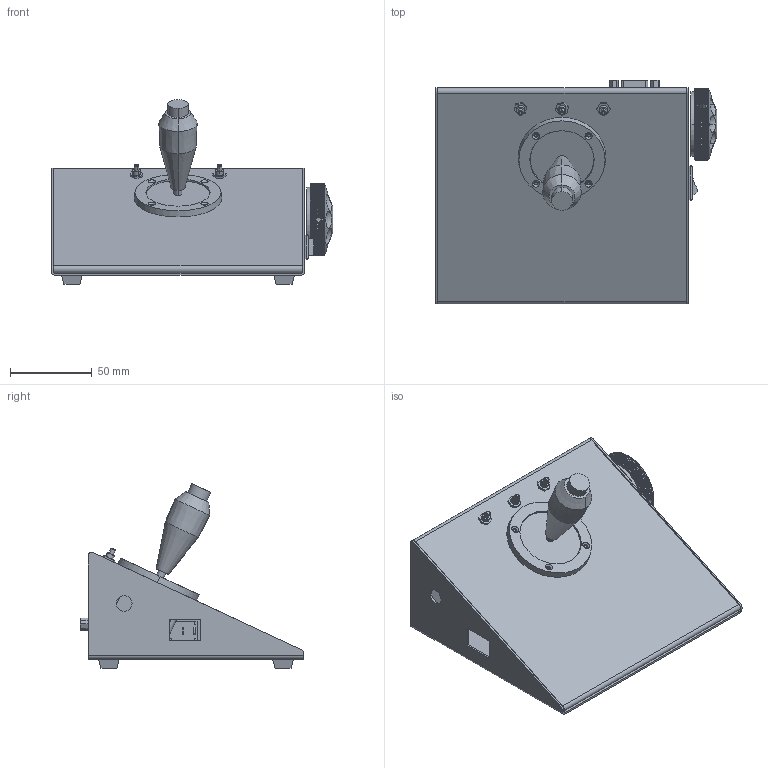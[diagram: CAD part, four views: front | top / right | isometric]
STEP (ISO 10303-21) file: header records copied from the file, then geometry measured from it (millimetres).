
FILE_DESCRIPTION (( 'STEP AP214' ), '1' );
FILE_NAME ('SA-JOY-Z (CATALOG MODEL).STEP', '2025-05-07T20:41:15', ( '' ), ( '' ), 'SwSTEP 2.0', 'SolidWorks 2023', '' );
FILE_SCHEMA (( 'AUTOMOTIVE_DESIGN' ));
Length unit declared in the file: inch
Products named in the file (1): SA-JOY-Z (CATALOG MODEL)
Bounding box: 172.49 x 136.91 x 112.95 mm (x, y, z)
Volume: 169855.8 mm3; surface area: 158581.5 mm2
Topology: 19 solids, 19 shells, 1175 faces, 3193 edges, 2093 vertices
Faces by surface type: plane 664, cylinder 457, cone 28, sphere 20, torus 6
Entity records: 55119 total; most frequent: CARTESIAN_POINT 10790, ORIENTED_EDGE 6366, DIRECTION 5697, EDGE_CURVE 3183, AXIS2_PLACEMENT_3D 2122, VERTEX_POINT 2093, VECTOR 1453, LINE 1453
